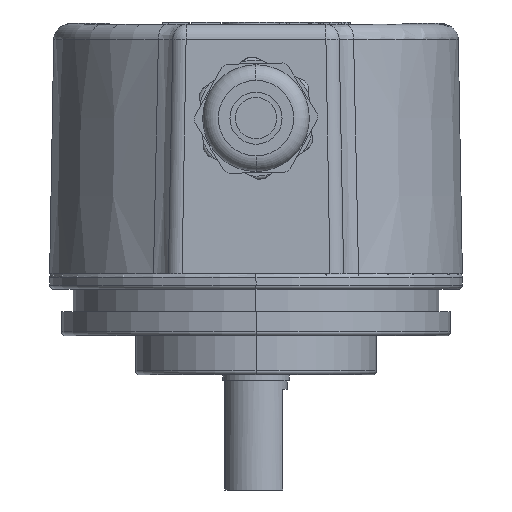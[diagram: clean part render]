
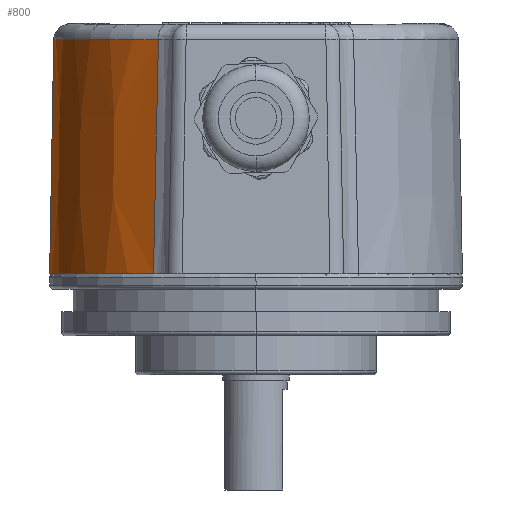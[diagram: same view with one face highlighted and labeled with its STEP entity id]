
A CAD part, front view. The second image highlights one B-rep face of the part: STEP entity #800.
In plain terms, the highlighted conical face has half-angle 1 degrees and reference radius 26.5 mm.
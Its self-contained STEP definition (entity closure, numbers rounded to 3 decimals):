
#800 = ADVANCED_FACE ( 'NONE', ( #30343 ), #28965, .T. ) ;
#1107 = EDGE_CURVE ( 'NONE', #14088, #3601, #6672, .T. ) ;
#1227 = DIRECTION ( 'NONE',  ( -1., 0., 0. ) ) ;
#1714 = ORIENTED_EDGE ( 'NONE', *, *, #11738, .T. ) ;
#2129 = VECTOR ( 'NONE', #18249, 1000. ) ;
#2760 = AXIS2_PLACEMENT_3D ( 'NONE', #23163, #5882, #26093 ) ;
#3601 = VERTEX_POINT ( 'NONE', #11839 ) ;
#3620 = CARTESIAN_POINT ( 'NONE',  ( -26.5, 0., -32. ) ) ;
#5098 = EDGE_LOOP ( 'NONE', ( #7569, #19984, #12927, #1714 ) ) ;
#5189 = CARTESIAN_POINT ( 'NONE',  ( -12.533, -22.752, -1.965 ) ) ;
#5882 = DIRECTION ( 'NONE',  ( 0., 0., -1. ) ) ;
#6672 = LINE ( 'NONE', #3620, #2129 ) ;
#6844 = CARTESIAN_POINT ( 'NONE',  ( -12.625, -22.787, -6.229 ) ) ;
#7569 = ORIENTED_EDGE ( 'NONE', *, *, #14346, .T. ) ;
#8155 = DIRECTION ( 'NONE',  ( 0., 0., -1. ) ) ;
#9900 = CARTESIAN_POINT ( 'NONE',  ( -13.17, -22.996, -32. ) ) ;
#10053 = AXIS2_PLACEMENT_3D ( 'NONE', #11347, #8155, #28477 ) ;
#10623 = CIRCLE ( 'NONE', #2760, 25.976 ) ;
#11347 = CARTESIAN_POINT ( 'NONE',  ( 0., 0., -32. ) ) ;
#11738 = EDGE_CURVE ( 'NONE', #37105, #22824, #33041, .T. ) ;
#11839 = CARTESIAN_POINT ( 'NONE',  ( -26.5, 0., -32. ) ) ;
#12927 = ORIENTED_EDGE ( 'NONE', *, *, #27524, .F. ) ;
#13957 = AXIS2_PLACEMENT_3D ( 'NONE', #27738, #18870, #1227 ) ;
#14088 = VERTEX_POINT ( 'NONE', #16471 ) ;
#14346 = EDGE_CURVE ( 'NONE', #22824, #14088, #10623, .T. ) ;
#16471 = CARTESIAN_POINT ( 'NONE',  ( -25.976, 0., -1.965 ) ) ;
#18249 = DIRECTION ( 'NONE',  ( -0.017, 0., -1. ) ) ;
#18870 = DIRECTION ( 'NONE',  ( 0., 0., -1. ) ) ;
#19984 = ORIENTED_EDGE ( 'NONE', *, *, #1107, .T. ) ;
#21584 = CARTESIAN_POINT ( 'NONE',  ( -12.564, -22.764, -3.386 ) ) ;
#22824 = VERTEX_POINT ( 'NONE', #5189 ) ;
#23163 = CARTESIAN_POINT ( 'NONE',  ( 0., 0., -1.965 ) ) ;
#24249 = CIRCLE ( 'NONE', #13957, 26.5 ) ;
#24501 = CARTESIAN_POINT ( 'NONE',  ( -12.99, -22.926, -23.41 ) ) ;
#24636 = CARTESIAN_POINT ( 'NONE',  ( -12.594, -22.775, -4.808 ) ) ;
#26093 = DIRECTION ( 'NONE',  ( 1., 0., 0. ) ) ;
#27524 = EDGE_CURVE ( 'NONE', #37105, #3601, #24249, .T. ) ;
#27738 = CARTESIAN_POINT ( 'NONE',  ( 0., 0., -32. ) ) ;
#28477 = DIRECTION ( 'NONE',  ( -1., 0., 0. ) ) ;
#28965 = CONICAL_SURFACE ( 'NONE', #10053, 26.5, 0.017 ) ;
#30343 = FACE_OUTER_BOUND ( 'NONE', #5098, .T. ) ;
#30381 = CARTESIAN_POINT ( 'NONE',  ( -12.809, -22.856, -14.819 ) ) ;
#32422 = CARTESIAN_POINT ( 'NONE',  ( -13.17, -22.996, -32. ) ) ;
#33036 = CARTESIAN_POINT ( 'NONE',  ( -12.533, -22.752, -1.965 ) ) ;
#33041 = B_SPLINE_CURVE_WITH_KNOTS ( 'NONE', 3,
 ( #9900, #24501, #30381, #6844, #24636, #21584, #33036 ),
 .UNSPECIFIED., .F., .F.,
 ( 4, 3, 4 ),
 ( 0.002, 0.028, 0.032 ),
 .UNSPECIFIED. ) ;
#37105 = VERTEX_POINT ( 'NONE', #32422 ) ;
